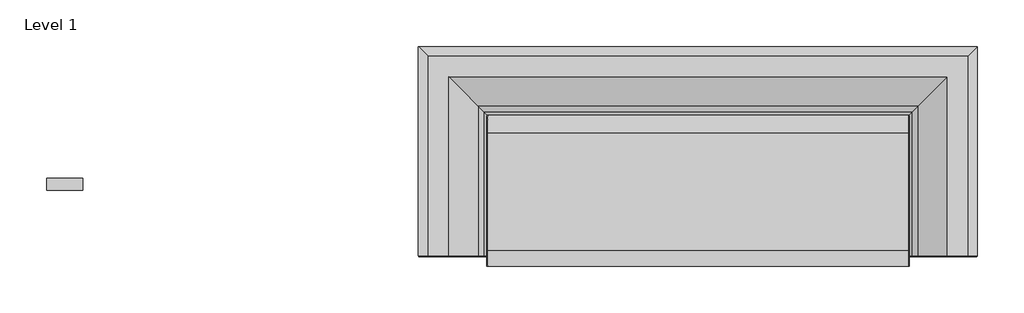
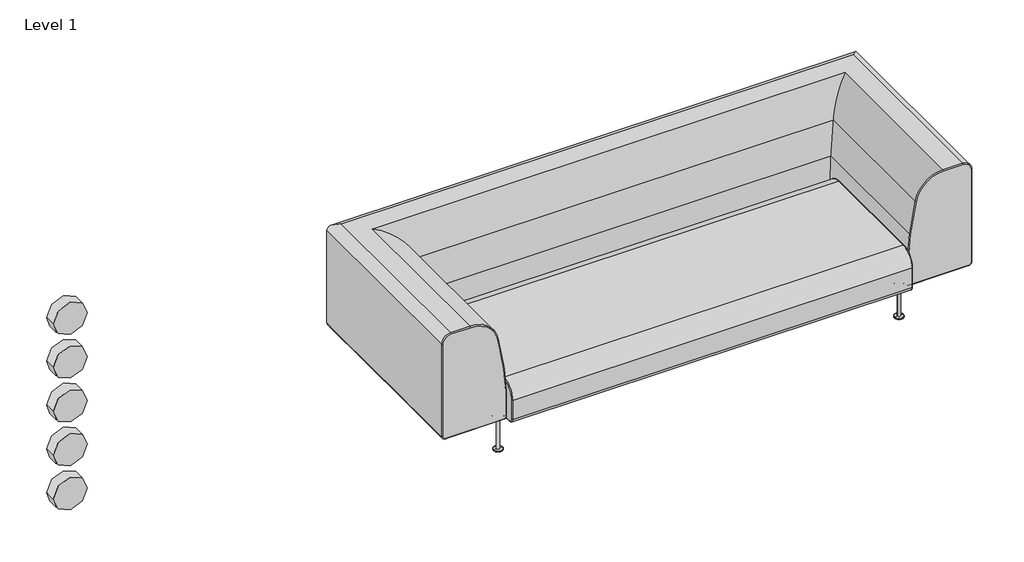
# One storey: 5 proxies, 1 furniture element.
"""IFC4 building model written with IfcOpenShell, lengths in millimetres."""

from ifc_helpers import new_model, si_unit, origin, place, context, project, spatial, transform, mapped, element, save
from components import materialmodel_materialmodel_fd2eb195, furniture_0ea46fb2, furniture_41420ba9

model = new_model("IFC4")

# Units and contexts
model_context = context("Model", 3, world=origin())
ifc_project = project(units=[si_unit("LENGTHUNIT", "METRE", prefix="MILLI")], contexts=[model_context])

# Site, building, storey
site = spatial("IfcSite", under=ifc_project)
building = spatial("IfcBuilding", under=site)
storey = spatial("IfcBuildingStorey", under=building, Name="Level 1", Elevation=0.0)

# Proxies
placement = place(None, origin())
materialmodel_materialmodel_shape = materialmodel_materialmodel_fd2eb195(model_context)
element("IfcBuildingElementProxy", 1, Name="MaterialModel : MaterialModel", ObjectType="MaterialModel : MaterialModel", at=placement, inside=storey, context=model_context, shape_type="MappedRepresentation", body=[
    mapped(materialmodel_materialmodel_shape, transform((-5312.0060013, -305.1378897, 613.8827107), x_axis=(1.0, 0.0, 0.0), y_axis=(0.0, 1.0, 0.0), z_axis=(0.0, 0.0, 1.0))),
])
element("IfcBuildingElementProxy", 2, Name="MaterialModel : MaterialModel", ObjectType="MaterialModel : MaterialModel", at=placement, inside=storey, context=model_context, shape_type="MappedRepresentation", body=[
    mapped(materialmodel_materialmodel_shape, transform((-5312.0060013, -305.1378897, 410.377997), x_axis=(1.0, 0.0, 0.0), y_axis=(0.0, 1.0, 0.0), z_axis=(0.0, 0.0, 1.0))),
])
element("IfcBuildingElementProxy", 3, Name="MaterialModel : MaterialModel", ObjectType="MaterialModel : MaterialModel", at=placement, inside=storey, context=model_context, shape_type="MappedRepresentation", body=[
    mapped(materialmodel_materialmodel_shape, transform((-5312.0060013, -305.1378897, 206.8732832), x_axis=(1.0, 0.0, 0.0), y_axis=(0.0, 1.0, 0.0), z_axis=(0.0, 0.0, 1.0))),
])
element("IfcBuildingElementProxy", 4, Name="MaterialModel : MaterialModel", ObjectType="MaterialModel : MaterialModel", at=placement, inside=storey, context=model_context, shape_type="MappedRepresentation", body=[
    mapped(materialmodel_materialmodel_shape, transform((-5312.0060013, -305.1378897, 817.3874245), x_axis=(1.0, 0.0, 0.0), y_axis=(0.0, 1.0, 0.0), z_axis=(0.0, 0.0, 1.0))),
])
element("IfcBuildingElementProxy", 5, Name="MaterialModel : MaterialModel", ObjectType="MaterialModel : MaterialModel", at=placement, inside=storey, context=model_context, shape_type="MappedRepresentation", body=[
    mapped(materialmodel_materialmodel_shape, transform((-5312.0060013, -305.1378897, 1020.8921382), x_axis=(1.0, 0.0, 0.0), y_axis=(0.0, 1.0, 0.0), z_axis=(0.0, 0.0, 1.0))),
])

# Furniture
furniture_shape = furniture_0ea46fb2(model_context)
furniture_2_shape = furniture_41420ba9(model_context)
element("IfcFurniture", 6, ObjectType="Hjelle - Gaia - Sofa - 3 Seater : Hjelle - Gaia - Sofa - 3 Seater", at=placement, inside=storey, context=model_context, shape_type="MappedRepresentation", body=[
    mapped(furniture_shape, transform((-2675.5082188, -305.1378897, 0.0), x_axis=(1.0, 0.0, 0.0), y_axis=(0.0, 1.0, 0.0), z_axis=(0.0, 0.0, 1.0))),
    mapped(furniture_2_shape, transform((-2675.5082188, -305.1378897, 0.0), x_axis=(1.0, 0.0, 0.0), y_axis=(0.0, 1.0, 0.0), z_axis=(0.0, 0.0, 1.0))),
])

save(model, "model.ifc")
